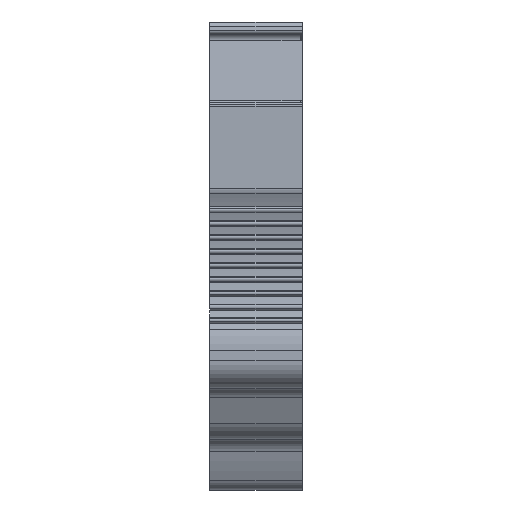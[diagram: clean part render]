
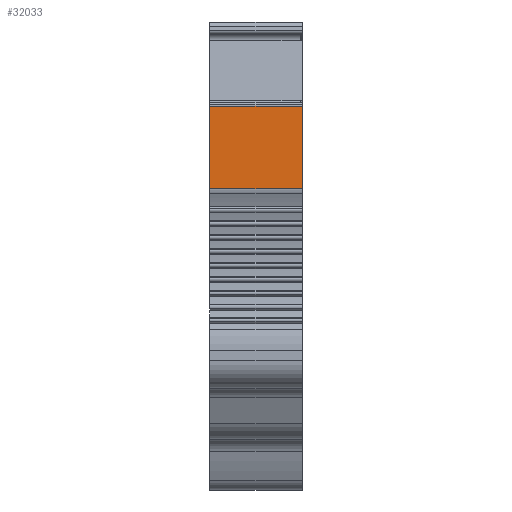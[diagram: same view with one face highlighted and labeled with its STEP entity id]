
A CAD part, left-side view. The second image highlights one B-rep face of the part: STEP entity #32033.
In plain terms, the highlighted planar face has unit normal (-1, 0, 0).
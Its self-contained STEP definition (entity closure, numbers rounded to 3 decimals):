
#32033 = ADVANCED_FACE('',(#32034),#32048,.F.);
#32034 = FACE_BOUND('',#32035,.T.);
#32035 = EDGE_LOOP('',(#32036,#32059,#32075,#32091));
#32036 = ORIENTED_EDGE('',*,*,#32037,.T.);
#32037 = EDGE_CURVE('',#32038,#32040,#32042,.T.);
#32038 = VERTEX_POINT('',#32039);
#32039 = CARTESIAN_POINT('',(-23.55,-2.,28.786));
#32040 = VERTEX_POINT('',#32041);
#32041 = CARTESIAN_POINT('',(-23.55,-2.,21.514));
#32042 = SURFACE_CURVE('',#32043,(#32047),.PCURVE_S1.);
#32043 = LINE('',#32044,#32045);
#32044 = CARTESIAN_POINT('',(-23.55,-2.,28.786));
#32045 = VECTOR('',#32046,1.);
#32046 = DIRECTION('',(0.,0.,-1.));
#32047 = PCURVE('',#32048,#32053);
#32048 = PLANE('',#32049);
#32049 = AXIS2_PLACEMENT_3D('',#32050,#32051,#32052);
#32050 = CARTESIAN_POINT('',(-23.55,-2.,28.786));
#32051 = DIRECTION('',(1.,0.,0.));
#32052 = DIRECTION('',(0.,0.,1.));
#32053 = DEFINITIONAL_REPRESENTATION('',(#32054),#32058);
#32054 = LINE('',#32055,#32056);
#32055 = CARTESIAN_POINT('',(0.,0.));
#32056 = VECTOR('',#32057,1.);
#32057 = DIRECTION('',(-1.,0.));
#32058 = ( GEOMETRIC_REPRESENTATION_CONTEXT(2) 
PARAMETRIC_REPRESENTATION_CONTEXT() REPRESENTATION_CONTEXT('2D SPACE',''
  ) );
#32059 = ORIENTED_EDGE('',*,*,#32060,.T.);
#32060 = EDGE_CURVE('',#32040,#32061,#32063,.T.);
#32061 = VERTEX_POINT('',#32062);
#32062 = CARTESIAN_POINT('',(-23.55,-10.2,21.514));
#32063 = SURFACE_CURVE('',#32064,(#32068),.PCURVE_S1.);
#32064 = LINE('',#32065,#32066);
#32065 = CARTESIAN_POINT('',(-23.55,-2.,21.514));
#32066 = VECTOR('',#32067,1.);
#32067 = DIRECTION('',(0.,-1.,0.));
#32068 = PCURVE('',#32048,#32069);
#32069 = DEFINITIONAL_REPRESENTATION('',(#32070),#32074);
#32070 = LINE('',#32071,#32072);
#32071 = CARTESIAN_POINT('',(-7.272,0.));
#32072 = VECTOR('',#32073,1.);
#32073 = DIRECTION('',(0.,1.));
#32074 = ( GEOMETRIC_REPRESENTATION_CONTEXT(2) 
PARAMETRIC_REPRESENTATION_CONTEXT() REPRESENTATION_CONTEXT('2D SPACE',''
  ) );
#32075 = ORIENTED_EDGE('',*,*,#32076,.F.);
#32076 = EDGE_CURVE('',#32077,#32061,#32079,.T.);
#32077 = VERTEX_POINT('',#32078);
#32078 = CARTESIAN_POINT('',(-23.55,-10.2,28.786));
#32079 = SURFACE_CURVE('',#32080,(#32084),.PCURVE_S1.);
#32080 = LINE('',#32081,#32082);
#32081 = CARTESIAN_POINT('',(-23.55,-10.2,28.786));
#32082 = VECTOR('',#32083,1.);
#32083 = DIRECTION('',(0.,0.,-1.));
#32084 = PCURVE('',#32048,#32085);
#32085 = DEFINITIONAL_REPRESENTATION('',(#32086),#32090);
#32086 = LINE('',#32087,#32088);
#32087 = CARTESIAN_POINT('',(0.,8.2));
#32088 = VECTOR('',#32089,1.);
#32089 = DIRECTION('',(-1.,0.));
#32090 = ( GEOMETRIC_REPRESENTATION_CONTEXT(2) 
PARAMETRIC_REPRESENTATION_CONTEXT() REPRESENTATION_CONTEXT('2D SPACE',''
  ) );
#32091 = ORIENTED_EDGE('',*,*,#32092,.F.);
#32092 = EDGE_CURVE('',#32038,#32077,#32093,.T.);
#32093 = SURFACE_CURVE('',#32094,(#32098),.PCURVE_S1.);
#32094 = LINE('',#32095,#32096);
#32095 = CARTESIAN_POINT('',(-23.55,-2.,28.786));
#32096 = VECTOR('',#32097,1.);
#32097 = DIRECTION('',(0.,-1.,0.));
#32098 = PCURVE('',#32048,#32099);
#32099 = DEFINITIONAL_REPRESENTATION('',(#32100),#32104);
#32100 = LINE('',#32101,#32102);
#32101 = CARTESIAN_POINT('',(0.,0.));
#32102 = VECTOR('',#32103,1.);
#32103 = DIRECTION('',(0.,1.));
#32104 = ( GEOMETRIC_REPRESENTATION_CONTEXT(2) 
PARAMETRIC_REPRESENTATION_CONTEXT() REPRESENTATION_CONTEXT('2D SPACE',''
  ) );
